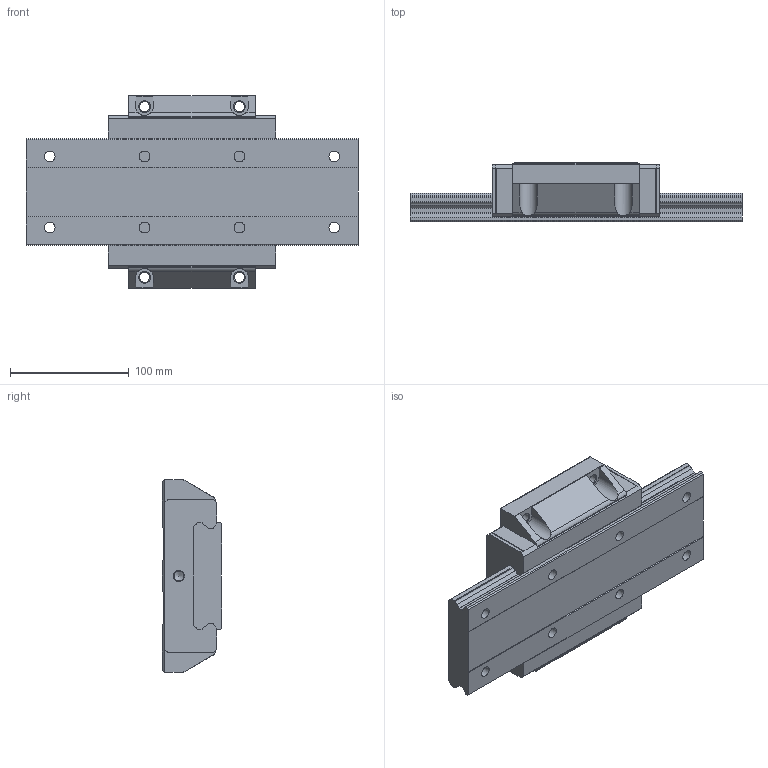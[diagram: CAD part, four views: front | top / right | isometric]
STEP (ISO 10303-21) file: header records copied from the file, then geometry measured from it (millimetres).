
FILE_DESCRIPTION(/* description */ ('STEP AP203'),/* implementation_level */ '2;1');
FILE_NAME(/* name */ 'SHW50CA1SS-280L_G20_0_Without_grease_nipple_69-5_0_0_01',/* time_stamp */ '2024-05-17T08:18:11+02:00',/* author */ ('License CC BY-ND 4.0'),/* organization */ ('CADENAS'),/* preprocessor_version */ 'ST-DEVELOPER v19.3',/* originating_system */ 'PARTsolutions',/* authorisation */ ' ');
FILE_SCHEMA (('CONFIG_CONTROL_DESIGN'));
Length unit declared in the file: millimetre
Products named in the file (4): SHW50CA1SS-280L_G20_0_Without_grease_nipple_69-5_0_0_01; SHW50CA28020 Track; SHW50CASS1 Slide12-50; -SHW_grease_nipple_joint
Assembly tree (3 placements, depth 2):
  SHW50CA1SS-280L_G20_0_Without_grease_nipple_69-5_0_0_01
    SHW50CA28020 Track
    SHW50CASS1 Slide12-50
    -SHW_grease_nipple_joint
Bounding box: 280 x 50 x 162 mm (x, y, z)
Volume: 1154377.1 mm3; surface area: 153248.7 mm2
Topology: 2 solids, 2 shells, 198 faces, 547 edges, 362 vertices
Faces by surface type: plane 116, cylinder 64, cone 18
Full cylindrical faces by diameter (mm): 8.6 x6, 9 x8, 14 x8
Entity records: 6216 total; most frequent: CARTESIAN_POINT 1087, DIRECTION 1058, ORIENTED_EDGE 992, EDGE_CURVE 496, AXIS2_PLACEMENT_3D 364, VERTEX_POINT 352, LINE 330, VECTOR 330
